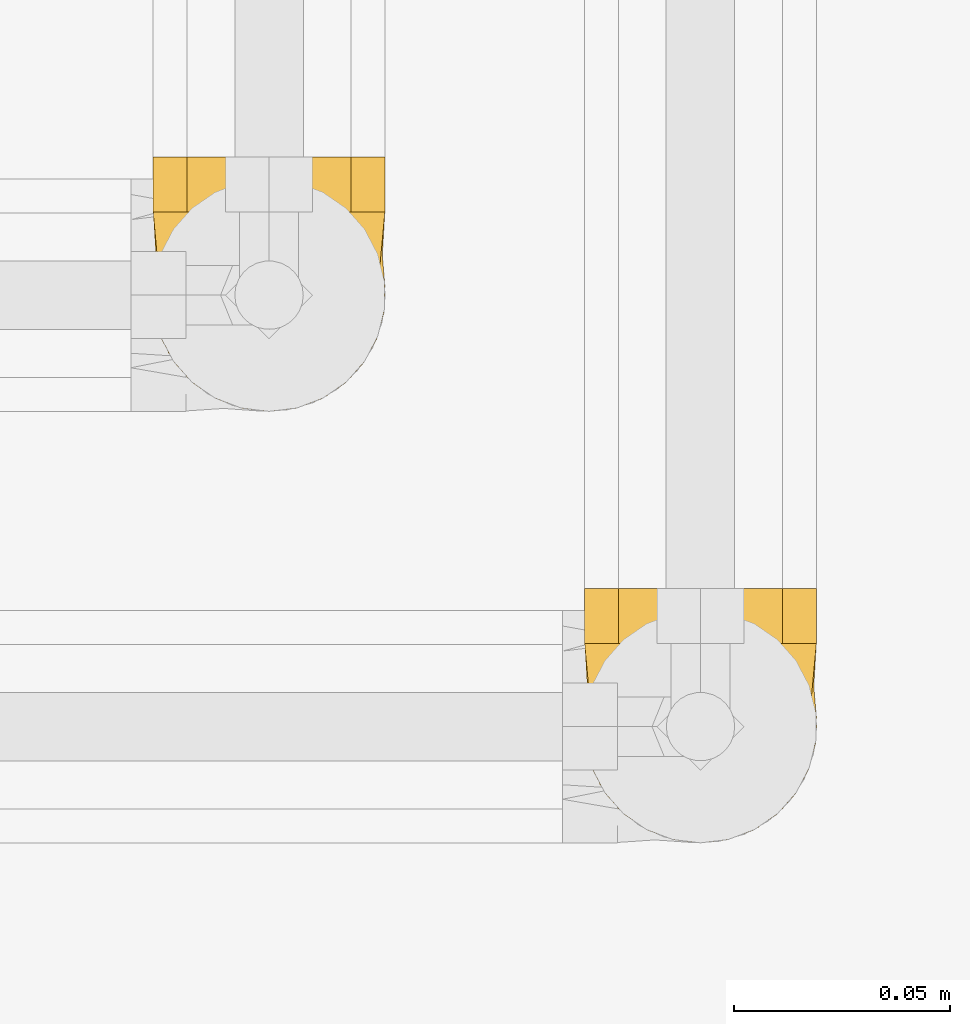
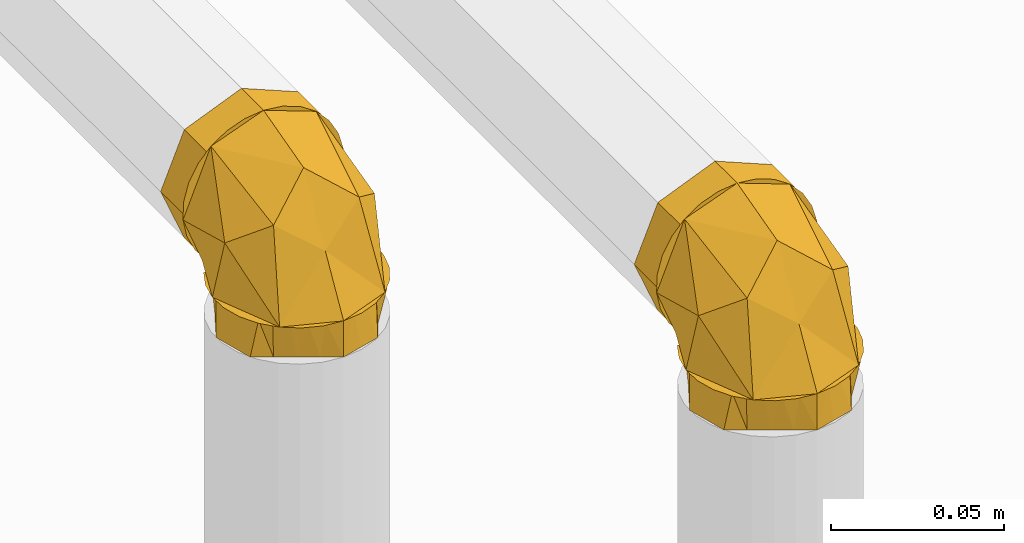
# One storey, part 347 of 652: 2 coverings.
"""IFC2X3 building model written with IfcOpenShell, lengths in millimetres."""

from ifc_helpers import new_model, entity, si_unit, converted_unit, direction, frame, origin, place, context, subcontext, project, spatial, face_set, surface_model, material, type_object, element, save


model = new_model("IFC2X3")

# Units and contexts
model_context = context("Model", 3, precision=0.01, world=frame((0.0, 0.0, 308426.39999999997)), true_north=direction((6.123233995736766e-17, 1.0)))
plan_context = context("Plan", 3, precision=0.01, world=frame((0.0, 0.0, 308426.39999999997)), true_north=direction((6.123233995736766e-17, 1.0)))
body_context = subcontext(model_context, "Body", "Model", "MODEL_VIEW")
ifc_project = project(units=[si_unit("LENGTHUNIT", "METRE", prefix="MILLI"), si_unit("AREAUNIT", "SQUARE_METRE"), si_unit("VOLUMEUNIT", "CUBIC_METRE"), converted_unit("PLANEANGLEUNIT", "DEGREE", entity("IfcPlaneAngleMeasure", 0.017453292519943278), si_unit("PLANEANGLEUNIT", "RADIAN"), dimensions=[0, 0, 0, 0, 0, 0, 0])], contexts=[model_context, plan_context])

# Site, building, storey
site_placement = place(None, origin())
site = spatial("IfcSite", under=ifc_project, at=site_placement, Name="Default", CompositionType="ELEMENT")
building_placement = place(site_placement, origin())
building = spatial("IfcBuilding", under=site, at=building_placement, CompositionType="ELEMENT")
storey_placement = place(building_placement, frame((0.0, 0.0, 1730.6999999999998)))
storey = spatial("IfcBuildingStorey", under=building, at=storey_placement, Name="EG_Produktion_FFB", CompositionType="ELEMENT", Elevation=1730.6999999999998)

# Coverings
ifc_material = material(Name="Dämmung - Armaflex-Schlauch")
covering_type = type_object("IfcCoveringType", Name="Rohrdämmung außen:Armaflex-Schlauch", PredefinedType="INSULATION")
covering_1_placement = place(storey_placement, frame((52371.46722776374, 31873.50378550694, 3668.016249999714)))
element("IfcCovering", 1, at=covering_1_placement, inside=storey, type_object=covering_type, material=ifc_material, Name="Rohrdämmung außen:Armaflex-Schlauch", ObjectType="Rohrdämmung außen:Armaflex-Schlauch", PredefinedType="INSULATION", context=body_context, shape_type="SurfaceModel", body=[
    surface_model("IfcFaceBasedSurfaceModel", [(9.65642195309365, 47.75027223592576, 12.766249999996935), (51.38658262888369, 47.75027223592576, 17.724287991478), (54.0915642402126, 47.75027223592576, 23.47627931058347), (55.37345654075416, 47.75027223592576, 29.70195853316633), (55.16088498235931, 47.7502722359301, 36.05468574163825), (53.465685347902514, 47.7502722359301, 42.180747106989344), (50.38224474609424, 47.7502722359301, 47.739049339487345), (46.08224622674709, 47.7502722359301, 52.42011143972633), (40.8051096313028, 47.7502722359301, 55.96329630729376), (34.844660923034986, 47.7502722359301, 58.17132276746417), (28.532772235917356, 47.7502722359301, 58.92124999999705), (22.220883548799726, 47.7502722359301, 58.17132276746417), (16.26043484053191, 47.7502722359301, 55.96329630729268), (10.983298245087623, 47.7502722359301, 52.42011143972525), (6.683299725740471, 47.7502722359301, 47.739049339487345), (3.599859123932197, 47.7502722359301, 42.180747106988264), (1.904659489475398, 47.7502722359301, 36.05468574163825), (1.6920879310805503, 47.75027223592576, 29.70195853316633), (2.973980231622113, 47.75027223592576, 23.47627931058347), (5.678961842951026, 47.75027223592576, 17.72428799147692), (47.409122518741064, 47.75027223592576, 12.766249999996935), (51.38658262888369, 42.79223424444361, 12.766249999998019), (54.0915642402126, 37.04024292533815, 12.766249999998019), (55.37345654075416, 30.81456370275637, 12.7662499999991), (55.16088498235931, 24.461836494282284, 12.766250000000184), (53.465685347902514, 18.33577512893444, 12.766250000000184), (50.38224474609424, 12.77747289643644, 12.766250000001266), (46.08224622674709, 8.09641079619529, 12.766250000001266), (40.8051096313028, 4.553225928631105, 12.76625000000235), (34.844660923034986, 2.3451994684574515, 12.76625000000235), (28.532772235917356, 1.5952722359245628, 12.76625000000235), (22.220883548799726, 2.3451994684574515, 12.76625000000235), (16.26043484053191, 4.553225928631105, 12.76625000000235), (10.983298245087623, 8.09641079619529, 12.766250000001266), (6.683299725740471, 12.77747289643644, 12.766250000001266), (3.599859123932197, 18.33577512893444, 12.766250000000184), (1.904659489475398, 24.461836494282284, 12.766250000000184), (1.6920879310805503, 30.81456370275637, 12.7662499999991), (2.973980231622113, 37.04024292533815, 12.766249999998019), (5.678961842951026, 42.79223424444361, 12.766249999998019), (2.2754724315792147, 37.80652333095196, 21.4470953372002), (28.534334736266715, 24.672441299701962, 52.73762725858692), (6.335689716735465, 47.75010243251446, 41.06101440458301), (3.6009729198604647, 26.951371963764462, 33.56554168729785), (14.284041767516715, 17.333354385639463, 41.84178070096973), (28.534334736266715, 12.140648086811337, 31.030231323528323), (6.335689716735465, 19.456480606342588, 12.766229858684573), (42.77997682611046, 17.333354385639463, 41.84178070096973), (53.46769655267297, 26.951371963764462, 33.56554168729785), (54.788546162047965, 37.80652333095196, 21.4470953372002), (50.728328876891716, 19.456480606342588, 12.766229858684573), (50.728328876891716, 47.75010243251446, 41.06101440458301), (28.532772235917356, 60.51652223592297, 58.92125000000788), (33.29469446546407, 60.51652223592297, 56.94879722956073), (38.05661669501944, 60.51652223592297, 54.97634445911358), (42.81853892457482, 60.51652223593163, 53.0038916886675), (47.5804611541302, 60.51652223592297, 51.03143891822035), (49.552913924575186, 60.516522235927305, 46.26951668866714), (51.525366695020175, 60.516522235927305, 41.50759445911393), (53.49781946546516, 60.516522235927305, 36.74567222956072), (55.47027223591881, 60.516522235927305, 31.98375000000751), (53.497819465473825, 60.516522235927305, 27.2218277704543), (51.525366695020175, 60.51652223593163, 22.45990554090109), (49.552913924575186, 60.51652223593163, 17.69798331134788), (47.5804611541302, 60.51652223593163, 12.936061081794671), (42.81853892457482, 60.51652223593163, 10.963608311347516), (38.05661669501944, 60.51652223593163, 8.991155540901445), (33.29469446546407, 60.51652223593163, 7.018702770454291), (28.532772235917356, 60.51652223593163, 5.046250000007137), (23.770850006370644, 60.51652223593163, 7.018702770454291), (19.008927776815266, 60.51652223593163, 8.991155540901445), (14.247005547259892, 60.51652223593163, 10.9636083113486), (9.485083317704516, 60.51652223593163, 12.936061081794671), (7.512630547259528, 60.516522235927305, 17.69798331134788), (5.54017777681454, 60.51652223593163, 22.45990554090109), (3.567725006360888, 60.51652223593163, 27.2218277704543), (1.5952722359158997, 60.516522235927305, 31.98375000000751), (3.567725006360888, 60.516522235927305, 36.74567222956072), (5.54017777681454, 60.516522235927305, 41.50759445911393), (7.512630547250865, 60.516522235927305, 46.26951668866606), (9.485083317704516, 60.51652223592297, 51.03143891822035), (14.247005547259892, 60.51652223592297, 53.0038916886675), (19.008927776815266, 60.51652223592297, 54.97634445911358), (23.77085000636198, 60.516522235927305, 56.94879722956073), (28.532772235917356, 47.750272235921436, 58.92125000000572), (23.77085000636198, 47.750272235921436, 56.94879722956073), (19.008927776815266, 47.750272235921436, 54.97634445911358), (14.247005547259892, 47.7502722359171, 53.00389168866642), (9.485083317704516, 47.750272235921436, 51.031438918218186), (7.095738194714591, 47.750272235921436, 45.26304951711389), (4.706393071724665, 47.750272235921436, 39.494660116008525), (1.5952722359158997, 47.75027223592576, 31.983750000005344), (3.567725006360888, 47.75027223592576, 27.221827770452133), (5.54017777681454, 47.7502722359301, 22.459905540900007), (7.512630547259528, 47.7502722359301, 17.697983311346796), (9.485083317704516, 47.7502722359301, 12.936061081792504), (15.253472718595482, 47.7502722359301, 10.546715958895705), (21.021862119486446, 47.7502722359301, 8.157370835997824), (28.532772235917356, 47.7502722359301, 5.046250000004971), (33.29469446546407, 47.7502722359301, 7.018702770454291), (38.05661669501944, 47.7502722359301, 8.991155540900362), (42.81853892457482, 47.7502722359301, 10.963608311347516), (47.5804611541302, 47.7502722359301, 12.936061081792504), (49.96980627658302, 47.7502722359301, 18.704450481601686), (52.359151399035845, 47.7502722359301, 24.472839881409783), (55.47027223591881, 47.75027223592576, 31.983750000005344), (53.497819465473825, 47.75027223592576, 36.74567222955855), (51.525366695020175, 47.750272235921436, 41.507594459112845), (49.552913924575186, 47.750272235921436, 46.26951668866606), (47.5804611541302, 47.750272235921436, 51.031438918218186), (41.81207177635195, 47.750272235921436, 53.420784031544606), (36.0436823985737, 47.750272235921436, 55.81012914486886), (28.532772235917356, 1.5952722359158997, 0.0), (22.700632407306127, 4.962459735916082, 0.0), (16.868492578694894, 8.329647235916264, 0.0), (11.036352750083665, 11.696834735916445, 0.0), (5.204212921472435, 15.064022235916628, 0.0), (3.3997425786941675, 21.79839723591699, 0.0), (1.5952722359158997, 28.532772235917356, 0.0), (4.962459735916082, 34.364912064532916, 0.0), (8.329647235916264, 40.197051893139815, 0.0), (11.696834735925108, 46.02919172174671, 0.0), (15.064022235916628, 51.86133155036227, 0.0), (21.79839723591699, 53.66580189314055, 0.0), (28.532772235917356, 55.47027223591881, 0.0), (34.36491206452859, 52.10308473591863, 0.0), (40.197051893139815, 48.73589723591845, 0.0), (46.02919172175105, 45.368709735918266, 0.0), (51.86133155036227, 42.00152223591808, 0.0), (53.66580189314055, 35.26714723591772, 0.0), (55.47027223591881, 28.532772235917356, 0.0), (52.10308473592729, 22.700632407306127, 0.0), (48.73589723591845, 16.868492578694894, 0.0), (45.368709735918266, 11.036352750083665, 0.0), (42.00152223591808, 5.204212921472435, 0.0), (35.26714723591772, 3.3997425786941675, 0.0), (28.532772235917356, 1.5952722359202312, 12.7662499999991), (33.29469446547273, 3.567725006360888, 12.7662499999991), (38.05661669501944, 5.540177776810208, 12.7662499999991), (42.81853892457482, 7.512630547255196, 12.766249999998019), (47.5804611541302, 9.485083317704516, 12.7662499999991), (49.552913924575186, 14.247005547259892, 12.7662499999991), (51.525366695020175, 19.008927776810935, 12.7662499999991), (53.49781946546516, 23.77085000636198, 12.7662499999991), (55.47027223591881, 28.532772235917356, 12.7662499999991), (53.497819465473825, 33.2946944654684, 12.7662499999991), (51.525366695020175, 38.05661669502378, 12.7662499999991), (49.552913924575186, 42.81853892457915, 12.7662499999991), (47.5804611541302, 47.5804611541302, 12.7662499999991), (42.81853892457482, 49.552913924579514, 12.7662499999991), (38.05661669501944, 51.5253666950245, 12.7662499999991), (33.29469446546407, 53.49781946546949, 12.7662499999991), (28.532772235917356, 55.47027223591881, 12.7662499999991), (23.77085000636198, 53.49781946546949, 12.7662499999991), (19.008927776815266, 51.5253666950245, 12.7662499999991), (14.247005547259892, 49.552913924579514, 12.7662499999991), (9.485083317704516, 47.5804611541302, 12.7662499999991), (7.512630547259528, 42.81853892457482, 12.7662499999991), (5.54017777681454, 38.05661669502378, 12.7662499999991), (3.567725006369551, 33.29469446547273, 12.7662499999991), (1.5952722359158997, 28.532772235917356, 12.7662499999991), (3.567725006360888, 23.770850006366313, 12.7662499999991), (5.54017777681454, 19.008927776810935, 12.7662499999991), (7.512630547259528, 14.24700554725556, 12.766249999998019), (9.485083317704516, 9.485083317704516, 12.7662499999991), (14.247005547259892, 7.512630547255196, 12.7662499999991), (19.008927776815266, 5.540177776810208, 12.7662499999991), (23.77085000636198, 3.5677250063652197, 12.766249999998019)], [face_set([[[0, 1, 2, 3, 4, 5, 6, 7, 8, 9, 10, 11, 12, 13, 14, 15, 16, 17, 18, 19]], [[20, 21, 22, 23, 24, 25, 26, 27, 28, 29, 30, 31, 32, 33, 34, 35, 36, 37, 38, 39]], [[0, 40, 17]], [[10, 13, 41]], [[42, 17, 43]], [[40, 43, 17]], [[37, 40, 0]], [[13, 43, 44]], [[45, 41, 44]], [[13, 44, 41]], [[33, 30, 45]], [[45, 44, 33]], [[43, 33, 44]], [[43, 37, 46]], [[43, 13, 42]], [[37, 43, 40]], [[46, 33, 43]], [[7, 10, 41]], [[27, 47, 45]], [[45, 30, 27]], [[48, 47, 27]], [[49, 48, 23]], [[48, 50, 23]], [[45, 47, 41]], [[20, 49, 23]], [[47, 48, 7]], [[3, 49, 20]], [[41, 47, 7]], [[48, 3, 51, 7]], [[48, 27, 50]], [[3, 48, 49]]]), face_set([[[52, 53, 54, 55, 56, 57, 58, 59, 60, 61, 62, 63, 64, 65, 66, 67, 68, 69, 70, 71, 72, 73, 74, 75, 76, 77, 78, 79, 80, 81, 82, 83]], [[84, 85, 86, 87, 88, 89, 90, 91, 92, 93, 94, 95, 96, 97, 98, 99, 100, 101, 102, 103, 104, 105, 106, 107, 108, 109, 110, 111]], [[111, 110, 109, 56, 55, 54, 53, 52, 84]], [[56, 109, 108, 107, 106, 105, 60, 59, 58, 57]], [[104, 103, 102, 64, 63, 62, 61, 60, 105]], [[64, 102, 101, 100, 99, 98, 68, 67, 66, 65]], [[97, 96, 95, 72, 71, 70, 69, 68, 98]], [[72, 95, 94, 93, 92, 91, 76, 75, 74, 73]], [[90, 89, 88, 80, 79, 78, 77, 76, 91]], [[80, 88, 87, 86, 85, 84, 52, 83, 82, 81]]]), face_set([[[112, 113, 114, 115, 116, 117, 118, 119, 120, 121, 122, 123, 124, 125, 126, 127, 128, 129, 130, 131, 132, 133, 134, 135]], [[136, 137, 138, 139, 140, 141, 142, 143, 144, 145, 146, 147, 148, 149, 150, 151, 152, 153, 154, 155, 156, 157, 158, 159, 160, 161, 162, 163, 164, 165, 166, 167]], [[155, 121, 156]], [[118, 159, 119]], [[159, 158, 119]], [[123, 154, 153]], [[153, 152, 124]], [[121, 155, 122]], [[120, 158, 157]], [[118, 160, 159]], [[158, 120, 119]], [[124, 123, 153]], [[157, 156, 121]], [[155, 154, 122]], [[123, 122, 154]], [[120, 157, 121]], [[163, 115, 164]], [[112, 167, 113]], [[167, 166, 113]], [[117, 162, 161]], [[161, 160, 118]], [[115, 163, 116]], [[114, 166, 165]], [[112, 136, 167]], [[166, 114, 113]], [[118, 117, 161]], [[165, 164, 115]], [[163, 162, 116]], [[117, 116, 162]], [[114, 165, 115]], [[139, 133, 140]], [[130, 143, 131]], [[143, 142, 131]], [[135, 138, 137]], [[137, 136, 112]], [[133, 139, 134]], [[132, 142, 141]], [[130, 144, 143]], [[142, 132, 131]], [[112, 135, 137]], [[141, 140, 133]], [[139, 138, 134]], [[135, 134, 138]], [[132, 141, 133]], [[147, 127, 148]], [[124, 151, 125]], [[151, 150, 125]], [[129, 146, 145]], [[145, 144, 130]], [[127, 147, 128]], [[126, 150, 149]], [[124, 152, 151]], [[150, 126, 125]], [[130, 129, 145]], [[149, 148, 127]], [[147, 146, 128]], [[129, 128, 146]], [[126, 149, 127]]])]),
])
covering_2_placement = place(storey_placement, frame((52271.46722776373, 31973.503785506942, 3668.0162499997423)))
element("IfcCovering", 2, at=covering_2_placement, inside=storey, type_object=covering_type, material=ifc_material, Name="Rohrdämmung außen:Armaflex-Schlauch", ObjectType="Rohrdämmung außen:Armaflex-Schlauch", PredefinedType="INSULATION", context=body_context, shape_type="SurfaceModel", body=[
    surface_model("IfcFaceBasedSurfaceModel", [(9.65642195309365, 47.75027223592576, 12.766249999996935), (51.38658262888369, 47.75027223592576, 17.724287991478), (54.0915642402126, 47.75027223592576, 23.47627931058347), (55.37345654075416, 47.75027223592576, 29.70195853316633), (55.16088498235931, 47.7502722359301, 36.05468574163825), (53.465685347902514, 47.7502722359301, 42.180747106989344), (50.38224474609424, 47.7502722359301, 47.739049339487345), (46.08224622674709, 47.7502722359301, 52.42011143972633), (40.8051096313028, 47.7502722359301, 55.96329630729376), (34.844660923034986, 47.7502722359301, 58.17132276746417), (28.532772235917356, 47.7502722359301, 58.92124999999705), (22.220883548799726, 47.7502722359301, 58.17132276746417), (16.26043484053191, 47.7502722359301, 55.96329630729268), (10.983298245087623, 47.7502722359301, 52.42011143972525), (6.683299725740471, 47.7502722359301, 47.739049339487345), (3.599859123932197, 47.7502722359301, 42.180747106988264), (1.904659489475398, 47.7502722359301, 36.05468574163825), (1.6920879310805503, 47.75027223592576, 29.70195853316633), (2.973980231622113, 47.75027223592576, 23.47627931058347), (5.678961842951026, 47.75027223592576, 17.72428799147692), (47.409122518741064, 47.75027223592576, 12.766249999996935), (51.38658262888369, 42.79223424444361, 12.766249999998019), (54.0915642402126, 37.04024292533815, 12.766249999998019), (55.37345654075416, 30.81456370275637, 12.7662499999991), (55.16088498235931, 24.461836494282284, 12.766250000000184), (53.465685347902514, 18.33577512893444, 12.766250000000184), (50.38224474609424, 12.77747289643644, 12.766250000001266), (46.08224622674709, 8.09641079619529, 12.766250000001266), (40.8051096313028, 4.553225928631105, 12.76625000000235), (34.844660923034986, 2.3451994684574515, 12.76625000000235), (28.532772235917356, 1.5952722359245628, 12.76625000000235), (22.220883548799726, 2.3451994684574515, 12.76625000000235), (16.26043484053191, 4.553225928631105, 12.76625000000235), (10.983298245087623, 8.09641079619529, 12.766250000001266), (6.683299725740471, 12.77747289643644, 12.766250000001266), (3.599859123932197, 18.33577512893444, 12.766250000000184), (1.904659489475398, 24.461836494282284, 12.766250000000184), (1.6920879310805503, 30.81456370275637, 12.7662499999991), (2.973980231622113, 37.04024292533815, 12.766249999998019), (5.678961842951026, 42.79223424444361, 12.766249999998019), (2.276925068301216, 37.807396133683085, 21.447095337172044), (28.531136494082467, 24.673314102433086, 52.73762725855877), (6.337142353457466, 47.75097523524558, 41.06101440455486), (3.5977746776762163, 26.949919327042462, 33.5655416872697), (14.285494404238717, 17.33190174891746, 41.84178070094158), (28.531136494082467, 12.139195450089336, 31.03023132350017), (6.337142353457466, 19.455027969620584, 12.766229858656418), (42.78142946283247, 17.33190174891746, 41.84178070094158), (53.464498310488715, 26.952244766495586, 33.5655416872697), (54.789998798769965, 37.807396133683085, 21.447095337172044), (50.729781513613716, 19.455027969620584, 12.766229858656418), (50.729781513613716, 47.75097523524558, 41.06101440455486), (28.532772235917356, 60.51652223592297, 58.92125000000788), (33.29469446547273, 60.516522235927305, 56.94879722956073), (38.056616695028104, 60.51652223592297, 54.97634445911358), (42.81853892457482, 60.516522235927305, 53.0038916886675), (47.5804611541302, 60.51652223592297, 51.03143891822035), (49.552913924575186, 60.516522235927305, 46.26951668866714), (51.525366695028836, 60.516522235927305, 41.50759445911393), (53.497819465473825, 60.516522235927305, 36.74567222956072), (55.47027223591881, 60.516522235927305, 31.98375000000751), (53.497819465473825, 60.516522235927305, 27.2218277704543), (51.525366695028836, 60.51652223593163, 22.45990554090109), (49.55291392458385, 60.51652223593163, 17.69798331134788), (47.5804611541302, 60.51652223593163, 12.936061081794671), (42.81853892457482, 60.51652223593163, 10.9636083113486), (38.056616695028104, 60.51652223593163, 8.991155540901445), (33.29469446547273, 60.51652223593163, 7.018702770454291), (28.532772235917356, 60.51652223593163, 5.046250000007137), (23.77085000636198, 60.51652223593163, 7.018702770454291), (19.008927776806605, 60.51652223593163, 8.991155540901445), (14.247005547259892, 60.516522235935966, 10.9636083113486), (9.485083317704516, 60.51652223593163, 12.936061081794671), (7.512630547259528, 60.51652223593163, 17.69798331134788), (5.540177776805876, 60.51652223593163, 22.45990554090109), (3.567725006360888, 60.516522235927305, 27.2218277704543), (1.5952722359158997, 60.516522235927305, 31.98375000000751), (3.567725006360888, 60.516522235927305, 36.74567222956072), (5.540177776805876, 60.516522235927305, 41.50759445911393), (7.512630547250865, 60.51652223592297, 46.26951668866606), (9.485083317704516, 60.51652223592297, 51.03143891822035), (14.247005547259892, 60.516522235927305, 53.0038916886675), (19.008927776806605, 60.51652223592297, 54.97634445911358), (23.77085000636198, 60.51652223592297, 56.94879722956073), (28.532772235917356, 47.750272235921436, 58.92125000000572), (23.77085000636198, 47.750272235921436, 56.94879722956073), (19.008927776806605, 47.750272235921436, 54.97634445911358), (14.247005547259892, 47.750272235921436, 53.00389168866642), (9.485083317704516, 47.750272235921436, 51.031438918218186), (7.095738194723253, 47.75027223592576, 45.26304951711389), (4.706393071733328, 47.750272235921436, 39.494660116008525), (1.5952722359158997, 47.75027223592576, 31.983750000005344), (3.567725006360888, 47.7502722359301, 27.221827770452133), (5.540177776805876, 47.7502722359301, 22.459905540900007), (7.512630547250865, 47.75027223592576, 17.697983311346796), (9.485083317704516, 47.7502722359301, 12.936061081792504), (15.253472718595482, 47.7502722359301, 10.546715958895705), (21.021862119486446, 47.7502722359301, 8.157370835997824), (28.532772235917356, 47.7502722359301, 5.046250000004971), (33.29469446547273, 47.7502722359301, 7.018702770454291), (38.056616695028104, 47.7502722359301, 8.991155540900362), (42.81853892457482, 47.7502722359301, 10.963608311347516), (47.5804611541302, 47.7502722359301, 12.936061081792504), (49.96980627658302, 47.7502722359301, 18.704450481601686), (52.359151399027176, 47.7502722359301, 24.472839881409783), (55.47027223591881, 47.75027223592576, 31.983750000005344), (53.497819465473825, 47.750272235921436, 36.74567222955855), (51.525366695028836, 47.750272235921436, 41.507594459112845), (49.552913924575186, 47.7502722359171, 46.26951668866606), (47.5804611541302, 47.750272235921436, 51.031438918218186), (41.81207177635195, 47.750272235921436, 53.420784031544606), (36.0436823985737, 47.750272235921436, 55.81012914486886), (28.532772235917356, 1.5952722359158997, 0.0), (22.700632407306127, 4.962459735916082, 0.0), (16.868492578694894, 8.329647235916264, 0.0), (11.036352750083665, 11.696834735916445, 0.0), (5.204212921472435, 15.064022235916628, 0.0), (3.3997425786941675, 21.79839723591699, 0.0), (1.5952722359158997, 28.532772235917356, 0.0), (4.962459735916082, 34.36491206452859, 0.0), (8.329647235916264, 40.197051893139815, 0.0), (11.696834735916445, 46.02919172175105, 0.0), (15.064022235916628, 51.86133155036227, 0.0), (21.79839723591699, 53.66580189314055, 0.0), (28.532772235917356, 55.47027223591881, 0.0), (34.36491206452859, 52.10308473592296, 0.0), (40.197051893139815, 48.73589723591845, 0.0), (46.02919172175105, 45.3687097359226, 0.0), (51.86133155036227, 42.00152223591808, 0.0), (53.66580189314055, 35.26714723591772, 0.0), (55.47027223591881, 28.532772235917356, 0.0), (52.10308473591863, 22.700632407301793, 0.0), (48.73589723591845, 16.868492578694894, 0.0), (45.368709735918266, 11.036352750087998, 0.0), (42.00152223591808, 5.204212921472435, 0.0), (35.26714723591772, 3.3997425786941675, 0.0), (28.532772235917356, 1.5952722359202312, 12.7662499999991), (33.29469446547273, 3.5677250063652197, 12.7662499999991), (38.056616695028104, 5.540177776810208, 12.7662499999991), (42.81853892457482, 7.512630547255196, 12.766249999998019), (47.5804611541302, 9.485083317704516, 12.7662499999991), (49.552913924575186, 14.24700554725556, 12.7662499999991), (51.525366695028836, 19.008927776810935, 12.7662499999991), (53.497819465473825, 23.770850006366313, 12.7662499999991), (55.47027223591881, 28.532772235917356, 12.7662499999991), (53.497819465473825, 33.29469446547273, 12.7662499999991), (51.525366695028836, 38.05661669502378, 12.7662499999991), (49.55291392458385, 42.81853892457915, 12.7662499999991), (47.5804611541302, 47.5804611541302, 12.7662499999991), (42.818538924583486, 49.552913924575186, 12.7662499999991), (38.056616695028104, 51.5253666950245, 12.7662499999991), (33.29469446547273, 53.497819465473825, 12.7662499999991), (28.532772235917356, 55.47027223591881, 12.7662499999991), (23.77085000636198, 53.497819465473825, 12.7662499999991), (19.008927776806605, 51.5253666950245, 12.7662499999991), (14.247005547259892, 49.552913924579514, 12.7662499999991), (9.485083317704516, 47.5804611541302, 12.7662499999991), (7.512630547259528, 42.81853892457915, 12.7662499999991), (5.540177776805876, 38.05661669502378, 12.7662499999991), (3.567725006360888, 33.2946944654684, 12.7662499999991), (1.5952722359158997, 28.532772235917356, 12.7662499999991), (3.567725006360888, 23.770850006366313, 12.7662499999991), (5.540177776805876, 19.008927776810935, 12.7662499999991), (7.512630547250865, 14.24700554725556, 12.766249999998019), (9.485083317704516, 9.485083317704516, 12.7662499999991), (14.247005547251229, 7.512630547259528, 12.7662499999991), (19.008927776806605, 5.540177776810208, 12.7662499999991), (23.77085000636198, 3.567725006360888, 12.766249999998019)], [face_set([[[0, 1, 2, 3, 4, 5, 6, 7, 8, 9, 10, 11, 12, 13, 14, 15, 16, 17, 18, 19]], [[20, 21, 22, 23, 24, 25, 26, 27, 28, 29, 30, 31, 32, 33, 34, 35, 36, 37, 38, 39]], [[0, 40, 17]], [[10, 13, 41]], [[42, 17, 43, 13]], [[40, 43, 17]], [[37, 40, 0]], [[13, 43, 44]], [[45, 41, 44]], [[13, 44, 41]], [[33, 30, 45]], [[45, 44, 33]], [[43, 33, 44]], [[43, 37, 46, 33]], [[37, 43, 40]], [[7, 10, 41]], [[27, 47, 45]], [[45, 30, 27]], [[48, 47, 27]], [[49, 48, 23]], [[48, 50, 23]], [[45, 47, 41]], [[20, 49, 23]], [[47, 48, 7]], [[3, 49, 20]], [[41, 47, 7]], [[48, 3, 51]], [[48, 27, 50]], [[3, 48, 49]], [[51, 7, 48]]]), face_set([[[52, 53, 54, 55, 56, 57, 58, 59, 60, 61, 62, 63, 64, 65, 66, 67, 68, 69, 70, 71, 72, 73, 74, 75, 76, 77, 78, 79, 80, 81, 82, 83]], [[84, 85, 86, 87, 88, 89, 90, 91, 92, 93, 94, 95, 96, 97, 98, 99, 100, 101, 102, 103, 104, 105, 106, 107, 108, 109, 110, 111]], [[111, 110, 109, 56, 55, 54, 53, 52, 84]], [[56, 109, 108, 107, 106, 105, 60, 59, 58, 57]], [[104, 103, 102, 64, 63, 62, 61, 60, 105]], [[64, 102, 101, 100, 99, 98, 68, 67, 66, 65]], [[97, 96, 95, 72, 71, 70, 69, 68, 98]], [[72, 95, 94, 93, 92, 91, 76, 75, 74, 73]], [[90, 89, 88, 80, 79, 78, 77, 76, 91]], [[80, 88, 87, 86, 85, 84, 52, 83, 82, 81]]]), face_set([[[112, 113, 114, 115, 116, 117, 118, 119, 120, 121, 122, 123, 124, 125, 126, 127, 128, 129, 130, 131, 132, 133, 134, 135]], [[136, 137, 138, 139, 140, 141, 142, 143, 144, 145, 146, 147, 148, 149, 150, 151, 152, 153, 154, 155, 156, 157, 158, 159, 160, 161, 162, 163, 164, 165, 166, 167]], [[155, 121, 156]], [[118, 159, 119]], [[159, 158, 119]], [[123, 154, 153]], [[153, 152, 124]], [[121, 155, 122]], [[120, 158, 157]], [[118, 160, 159]], [[158, 120, 119]], [[124, 123, 153]], [[157, 156, 121]], [[155, 154, 122]], [[123, 122, 154]], [[120, 157, 121]], [[163, 115, 164]], [[112, 167, 113]], [[167, 166, 113]], [[117, 162, 161]], [[161, 160, 118]], [[115, 163, 116]], [[114, 166, 165]], [[112, 136, 167]], [[166, 114, 113]], [[118, 117, 161]], [[165, 164, 115]], [[163, 162, 116]], [[117, 116, 162]], [[114, 165, 115]], [[139, 133, 140]], [[130, 143, 131]], [[143, 142, 131]], [[135, 138, 137]], [[137, 136, 112]], [[133, 139, 134]], [[132, 142, 141]], [[130, 144, 143]], [[142, 132, 131]], [[112, 135, 137]], [[141, 140, 133]], [[139, 138, 134]], [[135, 134, 138]], [[132, 141, 133]], [[147, 127, 148]], [[124, 151, 125]], [[151, 150, 125]], [[129, 146, 145]], [[145, 144, 130]], [[127, 147, 128]], [[126, 150, 149]], [[124, 152, 151]], [[150, 126, 125]], [[130, 129, 145]], [[149, 148, 127]], [[147, 146, 128]], [[129, 128, 146]], [[126, 149, 127]]])]),
])

save(model, "model.ifc")
